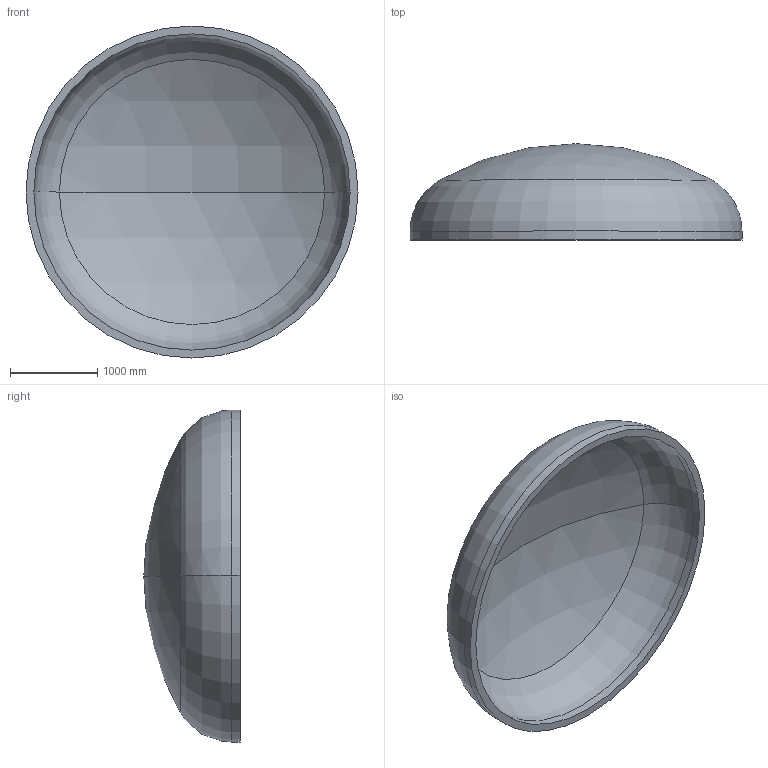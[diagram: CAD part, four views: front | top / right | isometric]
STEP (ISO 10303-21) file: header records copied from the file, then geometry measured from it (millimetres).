
FILE_DESCRIPTION (( 'STEP AP203' ), '1' );
FILE_NAME ('DIN 28013 Korbbogenform_-_Boden DIN 28013 - 3800 x 100 - I - s=90.step', '2016-07-01T21:44:32', ( '' ), ( '' ), 'SwSTEP 2.0', 'SolidWorks 2013', '' );
FILE_SCHEMA (( 'CONFIG_CONTROL_DESIGN' ));
Length unit declared in the file: millimetre
Products named in the file (1): DIN 28013 Korbbogenform_-_Boden DIN 28013 - 3800 x 100 - I - s=90
Bounding box: 3800 x 1102.47 x 3800 mm (x, y, z)
Volume: 1475180991.8 mm3; surface area: 33847730.8 mm2
Topology: 1 solids, 1 shells, 13 faces, 24 edges, 14 vertices
Faces by surface type: torus 4, cylinder 4, sphere 4, plane 1
Entity records: 407 total; most frequent: DIRECTION 72, CARTESIAN_POINT 52, ORIENTED_EDGE 48, AXIS2_PLACEMENT_3D 34, EDGE_CURVE 24, CIRCLE 20, VERTEX_POINT 14, EDGE_LOOP 14
